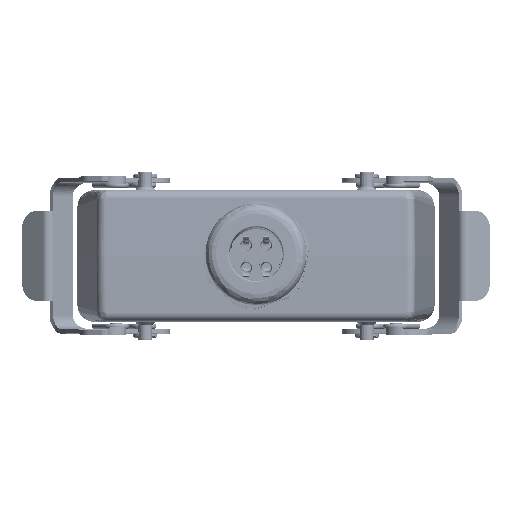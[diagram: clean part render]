
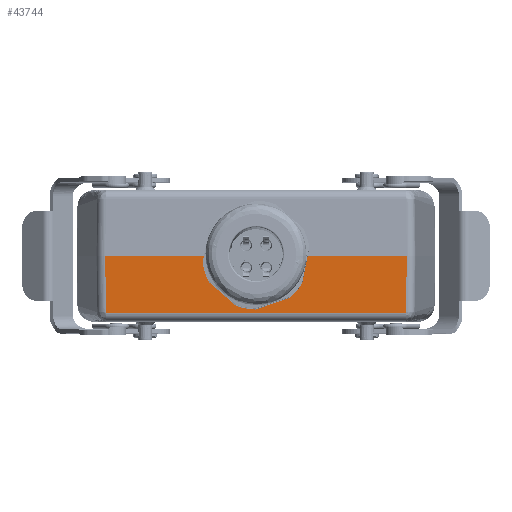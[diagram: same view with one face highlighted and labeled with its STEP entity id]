
A CAD part, top view. The second image highlights one B-rep face of the part: STEP entity #43744.
In plain terms, the highlighted planar face has unit normal (0, -0.018, 1).
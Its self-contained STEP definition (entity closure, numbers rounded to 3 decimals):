
#2424 = CARTESIAN_POINT ( 'NONE',  ( -50.088, -19.04, 59.668 ) ) ;
#2830 = CARTESIAN_POINT ( 'NONE',  ( 7.833, -11.755, 59.795 ) ) ;
#6089 = CARTESIAN_POINT ( 'NONE',  ( 11.75, -5.878, 59.897 ) ) ;
#8047 = EDGE_CURVE ( 'NONE', #191753, #229611, #23427, .T. ) ;
#9499 = CARTESIAN_POINT ( 'NONE',  ( -52.947, 0., 60. ) ) ;
#10714 = CARTESIAN_POINT ( 'NONE',  ( 0., -11.755, 59.795 ) ) ;
#16008 = VECTOR ( 'NONE', #185773, 1000. ) ;
#19727 = ORIENTED_EDGE ( 'NONE', *, *, #74482, .F. ) ;
#23427 =( BOUNDED_CURVE ( )  B_SPLINE_CURVE ( 3, ( #293780, #91562, #165590, #265844 ),
 .UNSPECIFIED., .F., .F. ) 
 B_SPLINE_CURVE_WITH_KNOTS ( ( 4, 4 ),
 ( 3.142, 4.712 ),
 .UNSPECIFIED. ) 
 CURVE ( )  GEOMETRIC_REPRESENTATION_ITEM ( )  RATIONAL_B_SPLINE_CURVE ( ( 0.5, 0.5, 0.667, 1. ) ) 
 REPRESENTATION_ITEM ( '' )  );
#27402 = VERTEX_POINT ( 'NONE', #284068 ) ;
#36798 = ORIENTED_EDGE ( 'NONE', *, *, #253761, .T. ) ;
#37566 = CARTESIAN_POINT ( 'NONE',  ( 11.75, 0., 60. ) ) ;
#38856 = CARTESIAN_POINT ( 'NONE',  ( -50.245, -12.616, 59.78 ) ) ;
#43744 = ADVANCED_FACE ( 'NONE', ( #318295 ), #92989, .T. ) ;
#50209 = CARTESIAN_POINT ( 'NONE',  ( -50.058, -19.052, 59.667 ) ) ;
#55399 = EDGE_CURVE ( 'NONE', #138676, #323391, #205255, .T. ) ;
#61887 = CARTESIAN_POINT ( 'NONE',  ( -50.338, -6.308, 59.89 ) ) ;
#62135 = B_SPLINE_CURVE_WITH_KNOTS ( 'NONE', 3,
 ( #78045, #181578, #101069, #2424, #50209, #255572 ),
 .UNSPECIFIED., .F., .F.,
 ( 4, 2, 4 ),
 ( 0., 0.5, 1. ),
 .UNSPECIFIED. ) ;
#64804 = CARTESIAN_POINT ( 'NONE',  ( 11.75, 0., 60. ) ) ;
#65863 = LINE ( 'NONE', #292745, #209640 ) ;
#66421 = VERTEX_POINT ( 'NONE', #74852 ) ;
#68321 = DIRECTION ( 'NONE',  ( -1., 0., 0. ) ) ;
#73574 = VECTOR ( 'NONE', #237551, 1000. ) ;
#74482 = EDGE_CURVE ( 'NONE', #27402, #323391, #283728, .T. ) ;
#74852 = CARTESIAN_POINT ( 'NONE',  ( -50.153, -18.923, 59.67 ) ) ;
#75548 = CARTESIAN_POINT ( 'NONE',  ( 50.153, -18.917, 59.67 ) ) ;
#78045 = CARTESIAN_POINT ( 'NONE',  ( -50.153, -18.923, 59.67 ) ) ;
#86358 = CARTESIAN_POINT ( 'NONE',  ( 50.43, 0., 60. ) ) ;
#91562 = CARTESIAN_POINT ( 'NONE',  ( -7.833, -11.755, 59.795 ) ) ;
#92989 = PLANE ( 'NONE',  #285718 ) ;
#95321 = CARTESIAN_POINT ( 'NONE',  ( 50.152, -18.955, 59.669 ) ) ;
#101069 = CARTESIAN_POINT ( 'NONE',  ( -50.138, -18.99, 59.669 ) ) ;
#102943 = ORIENTED_EDGE ( 'NONE', *, *, #8047, .T. ) ;
#123299 = ORIENTED_EDGE ( 'NONE', *, *, #159273, .T. ) ;
#126113 = ORIENTED_EDGE ( 'NONE', *, *, #275961, .T. ) ;
#128167 = VERTEX_POINT ( 'NONE', #193436 ) ;
#132577 = CARTESIAN_POINT ( 'NONE',  ( -50.43, 0., 60. ) ) ;
#136063 = LINE ( 'NONE', #9499, #215030 ) ;
#138676 = VERTEX_POINT ( 'NONE', #208209 ) ;
#143352 = B_SPLINE_CURVE_WITH_KNOTS ( 'NONE', 3,
 ( #315052, #38856, #61887, #132577 ),
 .UNSPECIFIED., .F., .F.,
 ( 4, 4 ),
 ( 0., 1. ),
 .UNSPECIFIED. ) ;
#147473 = EDGE_LOOP ( 'NONE', ( #178751, #123299, #102943, #258636, #269736, #36798, #126113, #286787, #19727 ) ) ;
#157951 = EDGE_CURVE ( 'NONE', #66421, #128167, #143352, .T. ) ;
#159273 = EDGE_CURVE ( 'NONE', #264401, #191753, #242391, .T. ) ;
#164545 = EDGE_CURVE ( 'NONE', #229611, #128167, #188987, .T. ) ;
#165590 = CARTESIAN_POINT ( 'NONE',  ( -11.75, -5.878, 59.897 ) ) ;
#165649 = DIRECTION ( 'NONE',  ( -1., 0., 0. ) ) ;
#178751 = ORIENTED_EDGE ( 'NONE', *, *, #290386, .T. ) ;
#181578 = CARTESIAN_POINT ( 'NONE',  ( -50.152, -18.959, 59.669 ) ) ;
#185773 = DIRECTION ( 'NONE',  ( -1., 0., 0. ) ) ;
#188987 = LINE ( 'NONE', #262974, #16008 ) ;
#191753 = VERTEX_POINT ( 'NONE', #10714 ) ;
#193255 = CARTESIAN_POINT ( 'NONE',  ( -52.947, 0., 60. ) ) ;
#193436 = CARTESIAN_POINT ( 'NONE',  ( -50.43, 0., 60. ) ) ;
#193846 = CARTESIAN_POINT ( 'NONE',  ( 50.153, -18.917, 59.67 ) ) ;
#197231 = CARTESIAN_POINT ( 'NONE',  ( 50.138, -18.987, 59.669 ) ) ;
#200463 = CARTESIAN_POINT ( 'NONE',  ( 50.052, -19.052, 59.667 ) ) ;
#205255 = B_SPLINE_CURVE_WITH_KNOTS ( 'NONE', 3,
 ( #272870, #200463, #322317, #197231, #95321, #75548 ),
 .UNSPECIFIED., .F., .F.,
 ( 4, 2, 4 ),
 ( 0., 0.5, 1. ),
 .UNSPECIFIED. ) ;
#208209 = CARTESIAN_POINT ( 'NONE',  ( 50.015, -19.052, 59.667 ) ) ;
#209640 = VECTOR ( 'NONE', #236790, 1000. ) ;
#215030 = VECTOR ( 'NONE', #165649, 1000. ) ;
#225342 = VERTEX_POINT ( 'NONE', #273625 ) ;
#229611 = VERTEX_POINT ( 'NONE', #244671 ) ;
#236790 = DIRECTION ( 'NONE',  ( 1., 0., 0. ) ) ;
#237551 = DIRECTION ( 'NONE',  ( -0.015, -1., -0.017 ) ) ;
#242391 =( BOUNDED_CURVE ( )  B_SPLINE_CURVE ( 3, ( #64804, #6089, #2830, #305358 ),
 .UNSPECIFIED., .F., .F. ) 
 B_SPLINE_CURVE_WITH_KNOTS ( ( 4, 4 ),
 ( 1.571, 3.142 ),
 .UNSPECIFIED. ) 
 CURVE ( )  GEOMETRIC_REPRESENTATION_ITEM ( )  RATIONAL_B_SPLINE_CURVE ( ( 1., 0.667, 0.5, 0.5 ) ) 
 REPRESENTATION_ITEM ( '' )  );
#244671 = CARTESIAN_POINT ( 'NONE',  ( -11.75, 0., 60. ) ) ;
#253761 = EDGE_CURVE ( 'NONE', #66421, #225342, #62135, .T. ) ;
#255572 = CARTESIAN_POINT ( 'NONE',  ( -50.021, -19.052, 59.667 ) ) ;
#258636 = ORIENTED_EDGE ( 'NONE', *, *, #164545, .T. ) ;
#262974 = CARTESIAN_POINT ( 'NONE',  ( -52.947, 0., 60. ) ) ;
#264401 = VERTEX_POINT ( 'NONE', #37566 ) ;
#265844 = CARTESIAN_POINT ( 'NONE',  ( -11.75, 0., 60. ) ) ;
#269736 = ORIENTED_EDGE ( 'NONE', *, *, #157951, .F. ) ;
#272870 = CARTESIAN_POINT ( 'NONE',  ( 50.015, -19.052, 59.667 ) ) ;
#273625 = CARTESIAN_POINT ( 'NONE',  ( -50.021, -19.052, 59.667 ) ) ;
#275961 = EDGE_CURVE ( 'NONE', #225342, #138676, #65863, .T. ) ;
#283728 = LINE ( 'NONE', #86358, #73574 ) ;
#284068 = CARTESIAN_POINT ( 'NONE',  ( 50.43, 0., 60. ) ) ;
#285718 = AXIS2_PLACEMENT_3D ( 'NONE', #193255, #293587, #68321 ) ;
#286787 = ORIENTED_EDGE ( 'NONE', *, *, #55399, .T. ) ;
#290386 = EDGE_CURVE ( 'NONE', #27402, #264401, #136063, .T. ) ;
#292745 = CARTESIAN_POINT ( 'NONE',  ( -52.947, -19.052, 59.667 ) ) ;
#293587 = DIRECTION ( 'NONE',  ( 0., -0.017, 1. ) ) ;
#293780 = CARTESIAN_POINT ( 'NONE',  ( 0., -11.755, 59.795 ) ) ;
#305358 = CARTESIAN_POINT ( 'NONE',  ( 0., -11.755, 59.795 ) ) ;
#315052 = CARTESIAN_POINT ( 'NONE',  ( -50.153, -18.923, 59.67 ) ) ;
#318295 = FACE_OUTER_BOUND ( 'NONE', #147473, .T. ) ;
#322317 = CARTESIAN_POINT ( 'NONE',  ( 50.085, -19.039, 59.668 ) ) ;
#323391 = VERTEX_POINT ( 'NONE', #193846 ) ;
